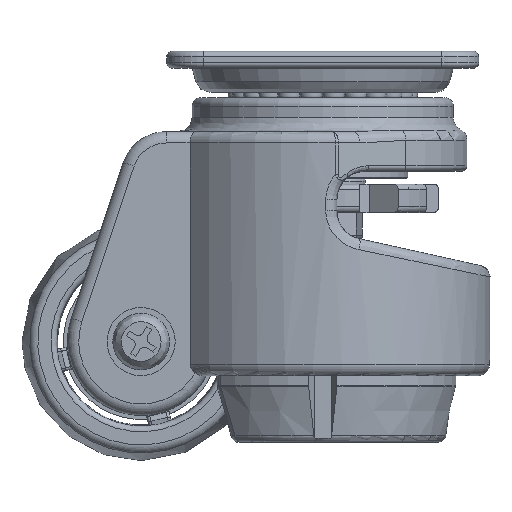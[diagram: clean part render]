
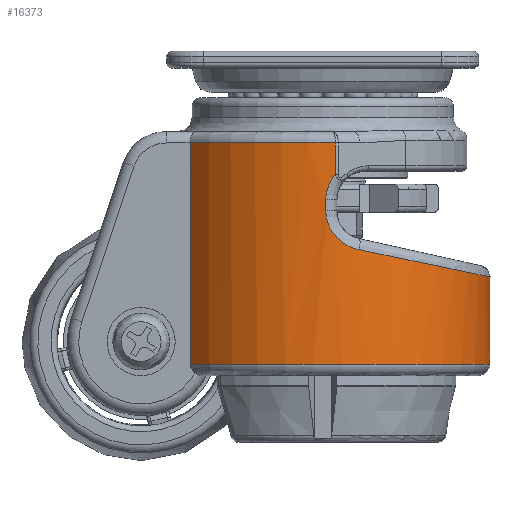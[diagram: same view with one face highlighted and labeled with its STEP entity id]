
A CAD part, front view. The second image highlights one B-rep face of the part: STEP entity #16373.
In plain terms, the highlighted cylindrical face has radius 29.5 mm (diameter 59 mm), a partial arc.
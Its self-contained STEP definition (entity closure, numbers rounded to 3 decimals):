
#14814=CARTESIAN_POINT('',(-23.372,18.0,-2.0));
#14815=VERTEX_POINT('',#14814);
#15131=CARTESIAN_POINT('',(-23.372,-18.0,-2.0));
#15132=VERTEX_POINT('',#15131);
#15166=CARTESIAN_POINT('',(-23.372,-18.0,-41.));
#15167=VERTEX_POINT('',#15166);
#15187=CARTESIAN_POINT('',(-23.372,-18.0,-2.0));
#15188=DIRECTION('',(0.0,0.0,-1.0));
#15189=VECTOR('',#15188,39.);
#15190=LINE('',#15187,#15189);
#15191=EDGE_CURVE('',#15132,#15167,#15190,.T.);
#15698=CARTESIAN_POINT('',(2.224,29.416,-2.0));
#15699=VERTEX_POINT('',#15698);
#15746=CARTESIAN_POINT('',(0.0,0.0,-2.0));
#15747=DIRECTION('',(0.0,0.0,1.));
#15748=DIRECTION('',(-0.407,0.913,0.0));
#15749=AXIS2_PLACEMENT_3D('',#15746,#15747,#15748);
#15750=CIRCLE('',#15749,29.5);
#15751=EDGE_CURVE('',#15699,#14815,#15750,.T.);
#15799=CARTESIAN_POINT('',(2.224,-29.416,-2.));
#15800=VERTEX_POINT('',#15799);
#15872=CARTESIAN_POINT('',(0.0,0.0,-2.0));
#15873=DIRECTION('',(0.0,0.0,1.));
#15874=DIRECTION('',(-0.407,-0.913,0.0));
#15875=AXIS2_PLACEMENT_3D('',#15872,#15873,#15874);
#15876=CIRCLE('',#15875,29.5);
#15877=EDGE_CURVE('',#15132,#15800,#15876,.T.);
#16238=CARTESIAN_POINT('',(2.224,-29.416,-7.578));
#16239=VERTEX_POINT('',#16238);
#16240=CARTESIAN_POINT('',(2.224,-29.416,-2.));
#16241=DIRECTION('',(0.0,0.0,-1.0));
#16242=VECTOR('',#16241,5.578);
#16243=LINE('',#16240,#16242);
#16244=EDGE_CURVE('',#15800,#16239,#16243,.T.);
#16257=CARTESIAN_POINT('',(0.0,0.0,0.0));
#16258=DIRECTION('',(0.0,0.0,-1.0));
#16259=DIRECTION('',(-1.0,0.0,0.0));
#16260=AXIS2_PLACEMENT_3D('',#16257,#16258,#16259);
#16261=CYLINDRICAL_SURFACE('',#16260,29.5);
#16262=ORIENTED_EDGE('',*,*,#15877,.F.);
#16263=ORIENTED_EDGE('',*,*,#15191,.T.);
#16264=CARTESIAN_POINT('',(-23.372,18.0,-41.));
#16265=VERTEX_POINT('',#16264);
#16266=CARTESIAN_POINT('',(0.0,0.0,-41.));
#16267=DIRECTION('',(0.0,0.0,-1.0));
#16268=DIRECTION('',(-1.0,0.0,0.0));
#16269=AXIS2_PLACEMENT_3D('',#16266,#16267,#16268);
#16270=CIRCLE('',#16269,29.5);
#16271=EDGE_CURVE('',#16265,#15167,#16270,.T.);
#16272=ORIENTED_EDGE('',*,*,#16271,.F.);
#16273=CARTESIAN_POINT('',(-23.372,18.0,-41.));
#16274=DIRECTION('',(0.0,0.0,1.0));
#16275=VECTOR('',#16274,39.);
#16276=LINE('',#16273,#16275);
#16277=EDGE_CURVE('',#16265,#14815,#16276,.T.);
#16278=ORIENTED_EDGE('',*,*,#16277,.T.);
#16279=ORIENTED_EDGE('',*,*,#15751,.F.);
#16280=CARTESIAN_POINT('',(2.224,29.416,-7.578));
#16281=VERTEX_POINT('',#16280);
#16282=CARTESIAN_POINT('',(2.224,29.416,-7.578));
#16283=DIRECTION('',(0.0,0.0,1.0));
#16284=VECTOR('',#16283,5.578);
#16285=LINE('',#16282,#16284);
#16286=EDGE_CURVE('',#16281,#15699,#16285,.T.);
#16287=ORIENTED_EDGE('',*,*,#16286,.F.);
#16288=CARTESIAN_POINT('',(0.536,29.495,-12.));
#16289=VERTEX_POINT('',#16288);
#16290=CARTESIAN_POINT('',(0.536,29.495,-12.));
#16291=CARTESIAN_POINT('',(0.536,29.495,-11.706));
#16292=CARTESIAN_POINT('',(0.596,29.494,-10.819));
#16293=CARTESIAN_POINT('',(0.918,29.487,-9.661));
#16294=CARTESIAN_POINT('',(1.461,29.465,-8.597));
#16295=CARTESIAN_POINT('',(1.873,29.441,-7.996));
#16296=CARTESIAN_POINT('',(2.145,29.422,-7.669));
#16297=CARTESIAN_POINT('',(2.224,29.416,-7.578));
#16298=B_SPLINE_CURVE_WITH_KNOTS('',3,(#16290,#16291,#16292,#16293,#16294,#16295,#16296,#16297),.UNSPECIFIED.,.F.,.U.,(4,1,1,1,1,4),(-4.492,-4.404,-4.228,-4.14,-4.052,-4.017),.UNSPECIFIED.);
#16299=EDGE_CURVE('',#16289,#16281,#16298,.T.);
#16300=ORIENTED_EDGE('',*,*,#16299,.F.);
#16301=CARTESIAN_POINT('',(0.536,29.495,-13.989));
#16302=VERTEX_POINT('',#16301);
#16303=CARTESIAN_POINT('',(0.536,29.495,-13.989));
#16304=DIRECTION('',(0.0,0.0,1.0));
#16305=VECTOR('',#16304,1.989);
#16306=LINE('',#16303,#16305);
#16307=EDGE_CURVE('',#16302,#16289,#16306,.T.);
#16308=ORIENTED_EDGE('',*,*,#16307,.F.);
#16309=CARTESIAN_POINT('',(6.417,28.794,-20.822));
#16310=VERTEX_POINT('',#16309);
#16311=CARTESIAN_POINT('',(6.417,28.794,-20.822));
#16312=CARTESIAN_POINT('',(5.956,28.896,-20.727));
#16313=CARTESIAN_POINT('',(5.039,29.077,-20.45));
#16314=CARTESIAN_POINT('',(3.774,29.266,-19.799));
#16315=CARTESIAN_POINT('',(2.835,29.367,-19.066));
#16316=CARTESIAN_POINT('',(2.19,29.42,-18.389));
#16317=CARTESIAN_POINT('',(1.619,29.458,-17.66));
#16318=CARTESIAN_POINT('',(1.049,29.483,-16.65));
#16319=CARTESIAN_POINT('',(0.632,29.494,-15.35));
#16320=CARTESIAN_POINT('',(0.536,29.495,-14.44));
#16321=CARTESIAN_POINT('',(0.536,29.495,-13.989));
#16322=B_SPLINE_CURVE_WITH_KNOTS('',3,(#16311,#16312,#16313,#16314,#16315,#16316,#16317,#16318,#16319,#16320,#16321),.UNSPECIFIED.,.F.,.U.,(4,1,1,1,1,1,1,1,4),(-0.946,-0.811,-0.676,-0.541,-0.473,-0.405,-0.27,-0.135,0.0),.UNSPECIFIED.);
#16323=EDGE_CURVE('',#16310,#16302,#16322,.T.);
#16324=ORIENTED_EDGE('',*,*,#16323,.F.);
#16325=CARTESIAN_POINT('',(6.417,-28.794,-20.822));
#16326=VERTEX_POINT('',#16325);
#16327=CARTESIAN_POINT('',(0.0,0.0,-19.493));
#16328=DIRECTION('',(0.203,0.0,0.979));
#16329=DIRECTION('',(0.979,0.0,-0.203));
#16330=AXIS2_PLACEMENT_3D('',#16327,#16328,#16329);
#16331=ELLIPSE('',#16330,30.126,29.5);
#16332=EDGE_CURVE('',#16326,#16310,#16331,.T.);
#16333=ORIENTED_EDGE('',*,*,#16332,.F.);
#16334=CARTESIAN_POINT('',(0.536,-29.495,-13.989));
#16335=VERTEX_POINT('',#16334);
#16336=CARTESIAN_POINT('',(0.536,-29.495,-13.989));
#16337=CARTESIAN_POINT('',(0.536,-29.495,-14.44));
#16338=CARTESIAN_POINT('',(0.631,-29.494,-15.349));
#16339=CARTESIAN_POINT('',(0.981,-29.485,-16.435));
#16340=CARTESIAN_POINT('',(1.391,-29.468,-17.257));
#16341=CARTESIAN_POINT('',(1.763,-29.448,-17.844));
#16342=CARTESIAN_POINT('',(2.19,-29.42,-18.389));
#16343=CARTESIAN_POINT('',(2.836,-29.367,-19.067));
#16344=CARTESIAN_POINT('',(3.775,-29.266,-19.8));
#16345=CARTESIAN_POINT('',(5.038,-29.077,-20.45));
#16346=CARTESIAN_POINT('',(5.956,-28.896,-20.727));
#16347=CARTESIAN_POINT('',(6.417,-28.794,-20.822));
#16348=B_SPLINE_CURVE_WITH_KNOTS('',3,(#16336,#16337,#16338,#16339,#16340,#16341,#16342,#16343,#16344,#16345,#16346,#16347),.UNSPECIFIED.,.F.,.U.,(4,1,1,1,1,1,1,1,1,4),(-0.946,-0.811,-0.676,-0.608,-0.541,-0.473,-0.405,-0.27,-0.135,0.),.UNSPECIFIED.);
#16349=EDGE_CURVE('',#16335,#16326,#16348,.T.);
#16350=ORIENTED_EDGE('',*,*,#16349,.F.);
#16351=CARTESIAN_POINT('',(0.536,-29.495,-12.));
#16352=VERTEX_POINT('',#16351);
#16353=CARTESIAN_POINT('',(0.536,-29.495,-12.));
#16354=DIRECTION('',(0.0,0.0,-1.0));
#16355=VECTOR('',#16354,1.989);
#16356=LINE('',#16353,#16355);
#16357=EDGE_CURVE('',#16352,#16335,#16356,.T.);
#16358=ORIENTED_EDGE('',*,*,#16357,.F.);
#16359=CARTESIAN_POINT('',(2.224,-29.416,-7.578));
#16360=CARTESIAN_POINT('',(2.145,-29.422,-7.669));
#16361=CARTESIAN_POINT('',(1.873,-29.441,-7.996));
#16362=CARTESIAN_POINT('',(1.461,-29.465,-8.597));
#16363=CARTESIAN_POINT('',(0.918,-29.487,-9.661));
#16364=CARTESIAN_POINT('',(0.596,-29.494,-10.819));
#16365=CARTESIAN_POINT('',(0.536,-29.495,-11.706));
#16366=CARTESIAN_POINT('',(0.536,-29.495,-12.));
#16367=B_SPLINE_CURVE_WITH_KNOTS('',3,(#16359,#16360,#16361,#16362,#16363,#16364,#16365,#16366),.UNSPECIFIED.,.F.,.U.,(4,1,1,1,1,4),(-4.967,-4.932,-4.844,-4.756,-4.58,-4.492),.UNSPECIFIED.);
#16368=EDGE_CURVE('',#16239,#16352,#16367,.T.);
#16369=ORIENTED_EDGE('',*,*,#16368,.F.);
#16370=ORIENTED_EDGE('',*,*,#16244,.F.);
#16371=EDGE_LOOP('',(#16262,#16263,#16272,#16278,#16279,#16287,#16300,#16308,#16324,#16333,#16350,#16358,#16369,#16370));
#16372=FACE_OUTER_BOUND('',#16371,.T.);
#16373=ADVANCED_FACE('',(#16372),#16261,.T.);
